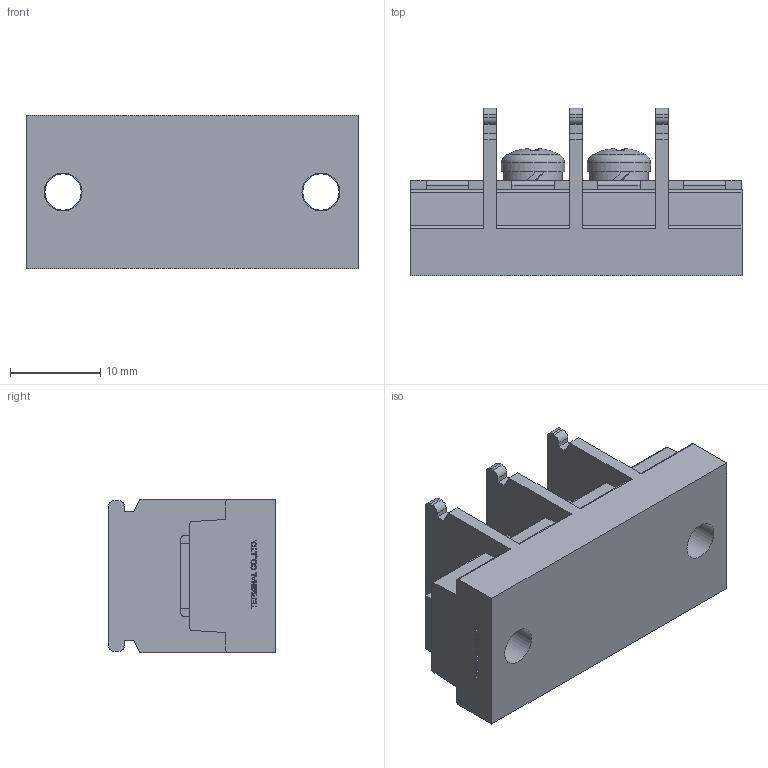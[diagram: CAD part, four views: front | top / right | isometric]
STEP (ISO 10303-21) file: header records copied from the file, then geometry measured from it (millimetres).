
FILE_DESCRIPTION(/* description */ ('Alibre Inc.'),/* implementation_level */ '2;1');
FILE_NAME(/* name */ 'export-EBEF31A2-2127-45AF-AEB2-A67B5F73F65F',/* time_stamp */ '2021-02-02T08:29:57+09:00',/* author */ (''),/* organization */ (''),/* preprocessor_version */ 'ST-DEVELOPER v17',/* originating_system */ 'Alibre',/* authorisation */ '');
FILE_SCHEMA (('CONFIG_CONTROL_DESIGN'));
Length unit declared in the file: millimetre
Bounding box: 36.7 x 18.5 x 17 mm (x, y, z)
Volume: 6047 mm3; surface area: 4001.1 mm2
Topology: 1 solids, 3 shells, 580 faces, 1574 edges, 1048 vertices
Faces by surface type: plane 412, bspline 104, cylinder 48, cone 10, torus 4, sphere 2
Full cylindrical faces by diameter (mm): 4 x6, 4.2 x2, 6.5 x2, 7 x2
Entity records: 17758 total; most frequent: CARTESIAN_POINT 4163, ORIENTED_EDGE 3096, DIRECTION 2018, EDGE_CURVE 1548, VECTOR 1168, LINE 1168, VERTEX_POINT 1038, EDGE_LOOP 652
